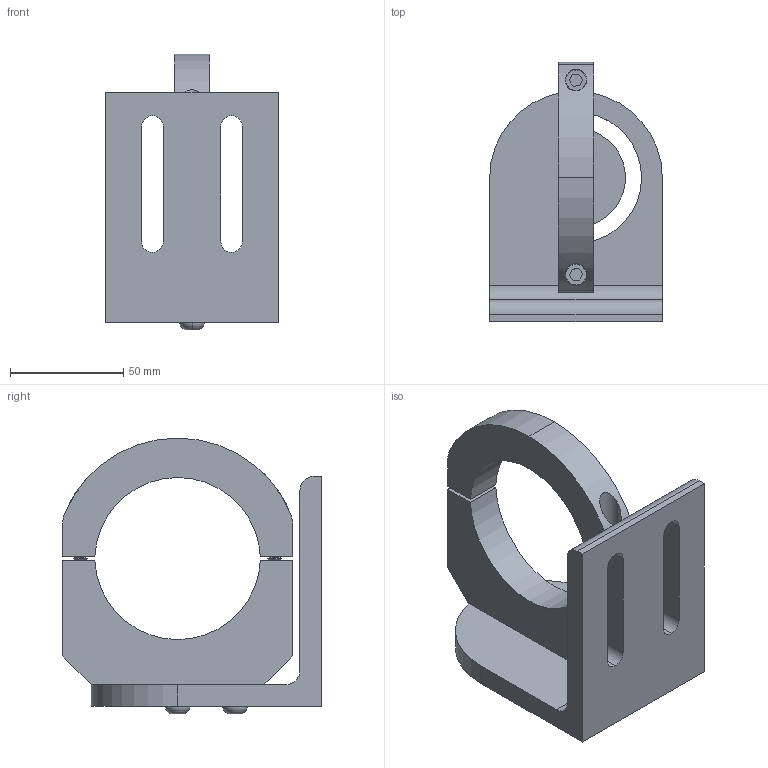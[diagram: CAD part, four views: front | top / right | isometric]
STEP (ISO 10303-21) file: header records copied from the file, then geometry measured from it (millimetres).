
FILE_DESCRIPTION (( 'STEP AP203' ), '1' );
FILE_NAME ('A-202-8.STEP', '2008-08-11T22:41:08', ( 'ANDREW' ), ( 'SIMONDS INC' ), 'SwSTEP 2.0', 'SolidWorks 2008', '' );
FILE_SCHEMA (( 'CONFIG_CONTROL_DESIGN' ));
Length unit declared in the file: inch
Products named in the file (6): A-200-1-1; A-202-8; A-200-1-008-A; A-200-1-008-B; A-202-2-1; A-200-1-5
Assembly tree (7 placements, depth 2):
  A-202-8
    A-202-2-1  x2
    A-200-1-008-A
    A-200-1-5  x2
    A-200-1-1
    A-200-1-008-B
Bounding box: 76.2 x 114.31 x 121.74 mm (x, y, z)
Volume: 206718.6 mm3; surface area: 60905.9 mm2
Topology: 7 solids, 7 shells, 292 faces, 638 edges, 365 vertices
Faces by surface type: cone 162, plane 68, cylinder 54, torus 8
Entity records: 5962 total; most frequent: CARTESIAN_POINT 1003, DIRECTION 978, ORIENTED_EDGE 824, EDGE_CURVE 412, AXIS2_PLACEMENT_3D 374, VERTEX_POINT 247, VECTOR 230, LINE 230
